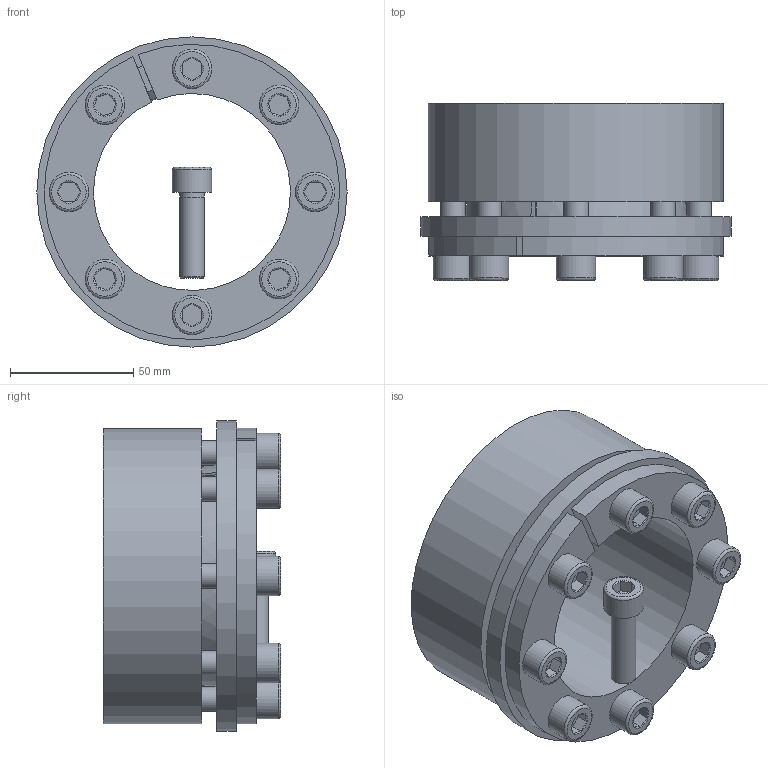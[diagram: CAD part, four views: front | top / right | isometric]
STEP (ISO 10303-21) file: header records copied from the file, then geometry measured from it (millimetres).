
FILE_DESCRIPTION( ( 'Unknown' ), '1' );
FILE_NAME( 'C:/Dokumente und Einstellungen/Sven/Desktop/homepage/cad - homepage/KBS71/KBS 71 - 80 x 120.stp', 'Unknown', ( 'Unknown' ), ( 'Unknown' ), 'XStep 1.0', 'Unknown', ' ' );
FILE_SCHEMA( ( 'automotive_design' ) );
Length unit declared in the file: millimetre
Products named in the file (3): Assem1; KBS 71 - 80 x 120; ISO EN DIN 4762 M10x35
Bounding box: 126 x 72 x 126 mm (x, y, z)
Volume: 699919.7 mm3; surface area: 173625.5 mm2
Topology: 11 solids, 11 shells, 305 faces, 659 edges, 394 vertices
Faces by surface type: plane 140, cylinder 76, cone 71, torus 18
Full cylindrical faces by diameter (mm): 9 x9, 10 x50, 16 x9, 126 x2
Entity records: 2318 total; most frequent: CARTESIAN_POINT 365, DIRECTION 352, ORIENTED_EDGE 272, AXIS2_PLACEMENT_3D 151, EDGE_CURVE 136, EDGE_LOOP 122, VERTEX_POINT 96, FACE_OUTER_BOUND 88
